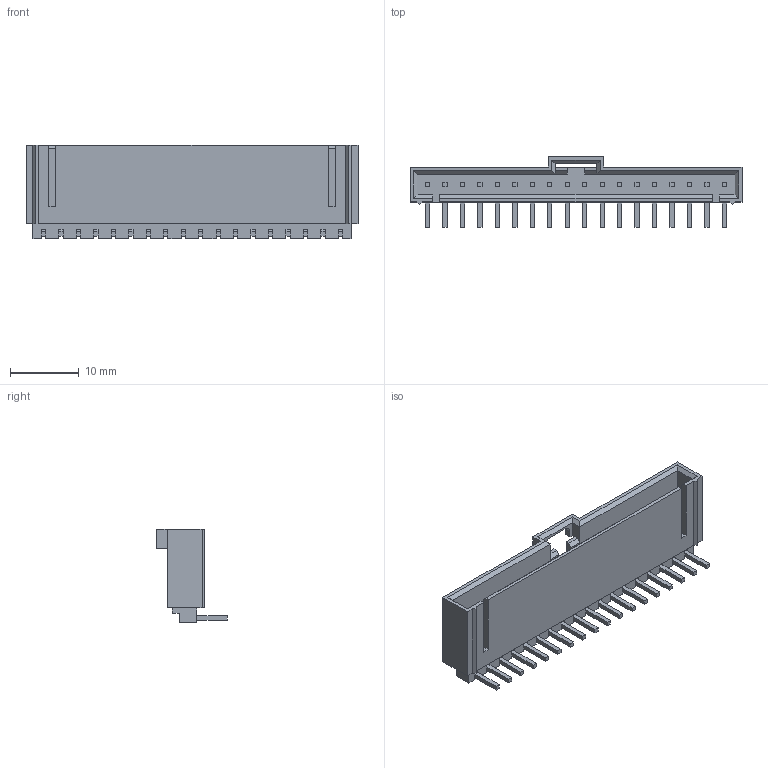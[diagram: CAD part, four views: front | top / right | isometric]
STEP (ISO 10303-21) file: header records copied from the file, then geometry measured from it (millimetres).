
FILE_DESCRIPTION((''),'2;1');
FILE_NAME('705530017','2013-07-31T',('me'),(''),'PRO/ENGINEER BY PARAMETRIC TECHNOLOGY CORPORATION, 2011490','PRO/ENGINEER BY PARAMETRIC TECHNOLOGY CORPORATION, 2011490','');
FILE_SCHEMA(('CONFIG_CONTROL_DESIGN'));
Length unit declared in the file: inch
Products named in the file (1): 705530017
Bounding box: 48.26 x 10.29 x 13.59 mm (x, y, z)
Volume: 1844.7 mm3; surface area: 3353.9 mm2
Topology: 1 solids, 1 shells, 403 faces, 1070 edges, 686 vertices
Faces by surface type: plane 365, cylinder 38
Entity records: 12248 total; most frequent: CARTESIAN_POINT 2159, ORIENTED_EDGE 2140, DIRECTION 1952, EDGE_CURVE 1070, VECTOR 994, LINE 994, VERTEX_POINT 686, AXIS2_PLACEMENT_3D 479
